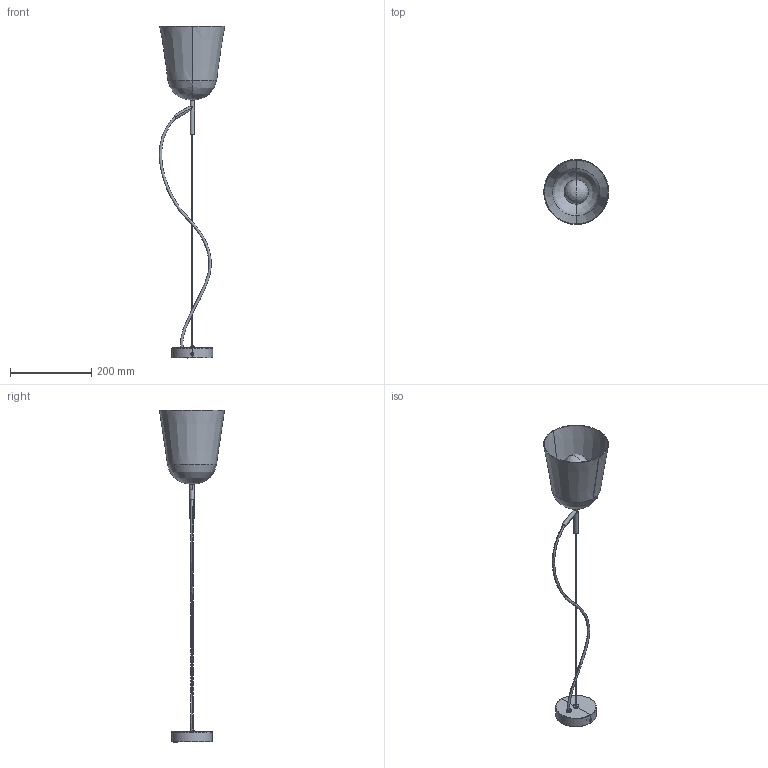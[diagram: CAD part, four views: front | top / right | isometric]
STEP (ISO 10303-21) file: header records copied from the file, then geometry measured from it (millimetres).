
FILE_DESCRIPTION(/* description */ (''),/* implementation_level */ '2;1');
FILE_NAME(/* name */ '28263.step',/* time_stamp */ '2024-06-10T13:02:42+02:00',/* author */ ('RenataManzini'),/* organization */ (''),/* preprocessor_version */ 'ST-DEVELOPER v20',/* originating_system */ 'AutoCAD Mechanical',/* authorisation */ '');
FILE_SCHEMA (('AUTOMOTIVE_DESIGN { 1 0 10303 214 3 1 1 }'));
Length unit declared in the file: millimetre
Products named in the file (4): Product; studio_soporte - soporte-640663-_3D_; studio_pantalla_160 - Lamp Holder-646681-_3D_; FamilyGeomCombination_645162-_3D_
Assembly tree (3 placements, depth 2):
  Product
    studio_soporte - soporte-640663-_3D_
    studio_pantalla_160 - Lamp Holder-646681-_3D_
    FamilyGeomCombination_645162-_3D_
Bounding box: 161.37 x 160.03 x 816.57 mm (x, y, z)
Volume: 370045.2 mm3; surface area: 236625.4 mm2
Topology: 8 solids, 9 shells, 126 faces, 283 edges, 168 vertices
Faces by surface type: plane 50, cylinder 48, cone 12, bspline 12, torus 4
Entity records: 6413 total; most frequent: CARTESIAN_POINT 3584, DIRECTION 574, ORIENTED_EDGE 552, EDGE_CURVE 278, AXIS2_PLACEMENT_3D 226, VERTEX_POINT 163, EDGE_LOOP 139, FACE_OUTER_BOUND 126
